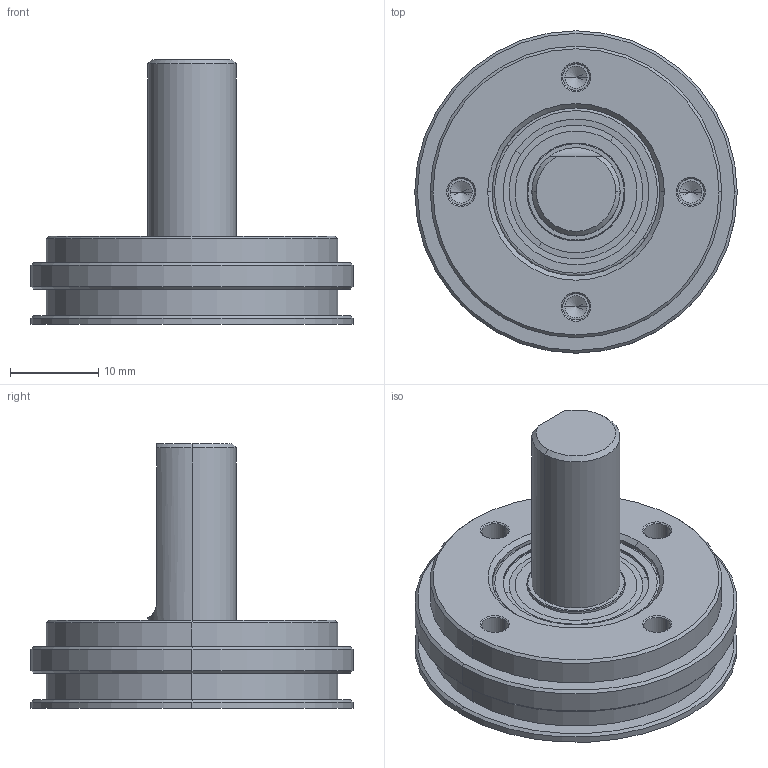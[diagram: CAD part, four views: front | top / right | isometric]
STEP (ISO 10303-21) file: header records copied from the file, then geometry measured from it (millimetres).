
FILE_DESCRIPTION (( 'STEP AP214' ), '1' );
FILE_NAME ('drawing-ucd-raf0-q3a-n.STEP', '2017-03-10T08:57:43', ( '' ), ( '' ), 'SwSTEP 2.0', 'SolidWorks 2015', '' );
FILE_SCHEMA (( 'AUTOMOTIVE_DESIGN' ));
Length unit declared in the file: millimetre
Products named in the file (1): drawing-ucd-raf0-q3a-n
Bounding box: 36.5 x 36.5 x 30 mm (x, y, z)
Volume: 9481.5 mm3; surface area: 7222.9 mm2
Topology: 13 solids, 13 shells, 170 faces, 373 edges, 204 vertices
Faces by surface type: cylinder 57, cone 49, bspline 42, plane 22
Entity records: 7221 total; most frequent: CARTESIAN_POINT 1723, DIRECTION 786, ORIENTED_EDGE 666, AXIS2_PLACEMENT_3D 339, EDGE_CURVE 333, CIRCLE 210, VERTEX_POINT 204, EDGE_LOOP 193
